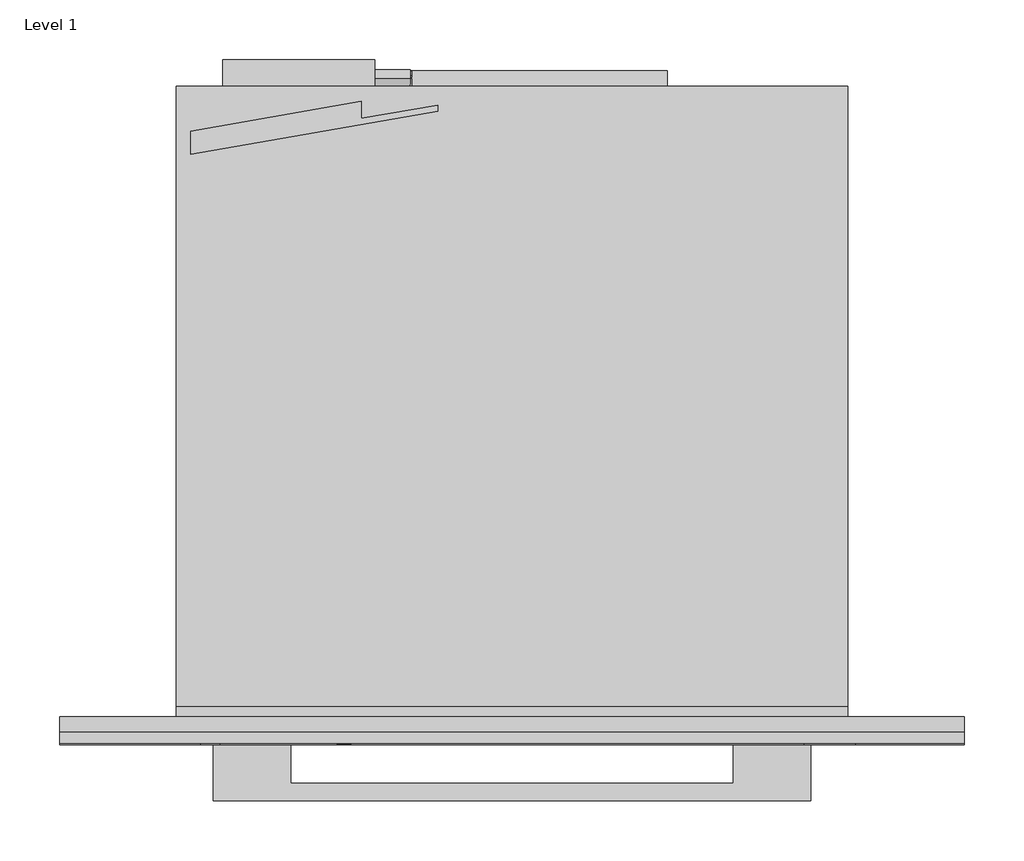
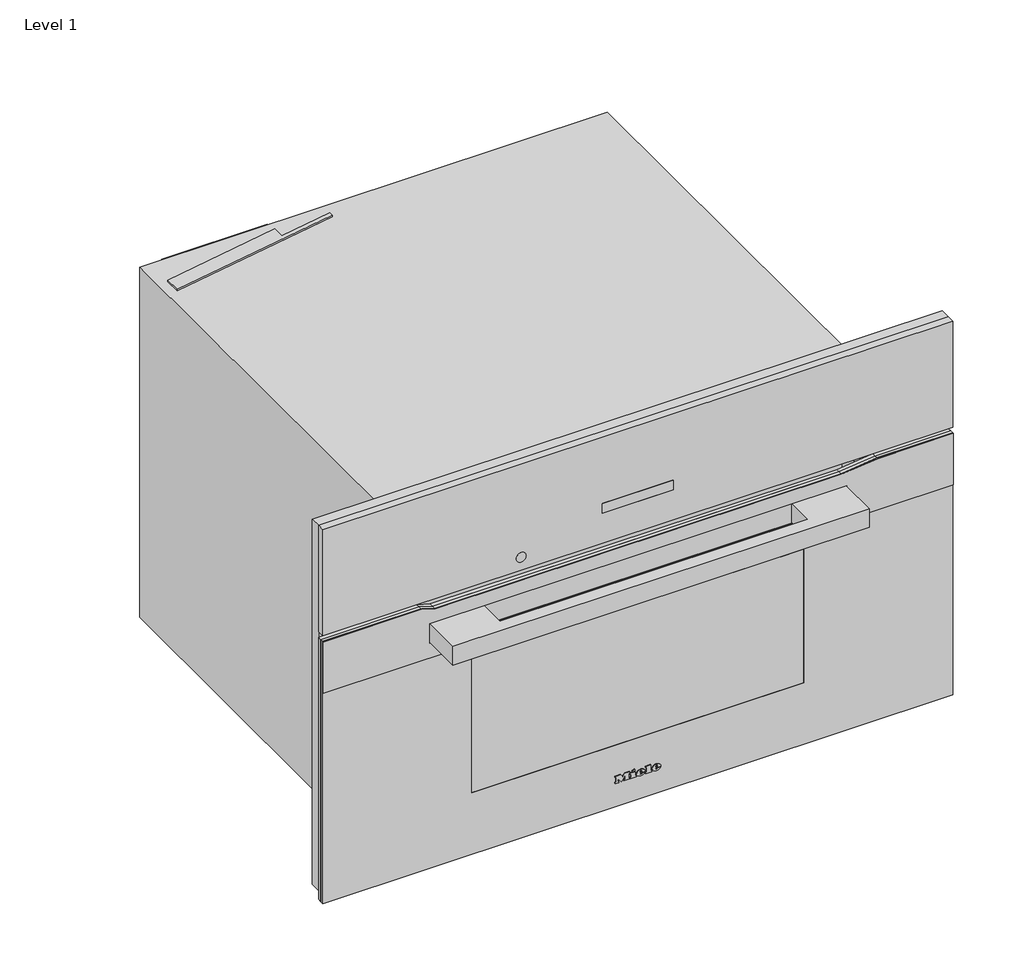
# One storey: 1 proxy.
"""IFC4 building model written with IfcOpenShell, lengths in millimetres."""

from ifc_helpers import new_model, si_unit, origin, place, context, project, spatial, transform, mapped, element, save
from components import specialty_equipment_06096c74

model = new_model("IFC4")

# Units and contexts
model_context = context("Model", 3, world=origin())
ifc_project = project(units=[si_unit("LENGTHUNIT", "METRE", prefix="MILLI")], contexts=[model_context])

# Site, building, storey
site = spatial("IfcSite", under=ifc_project)
building = spatial("IfcBuilding", under=site)
storey = spatial("IfcBuildingStorey", under=building, Name="Level 1", Elevation=0.0)

# Proxy
placement = place(None, origin())
specialty_equipment_shape = specialty_equipment_06096c74(model_context)
element("IfcBuildingElementProxy", 1, Name="11804570_USA_H7270BM_EDST-CLST : 22727046_USA_11804570_H7270BM_EDST-CLST", ObjectType="11804570_USA_H7270BM_EDST-CLST : 22727046_USA_11804570_H7270BM_EDST-CLST", at=placement, inside=storey, context=model_context, shape_type="MappedRepresentation", body=[
    mapped(specialty_equipment_shape, transform((0.0, 0.0, 0.0), x_axis=(1.0, 0.0, 0.0), y_axis=(0.0, 1.0, 0.0), z_axis=(0.0, 0.0, 1.0))),
])

save(model, "model.ifc")
